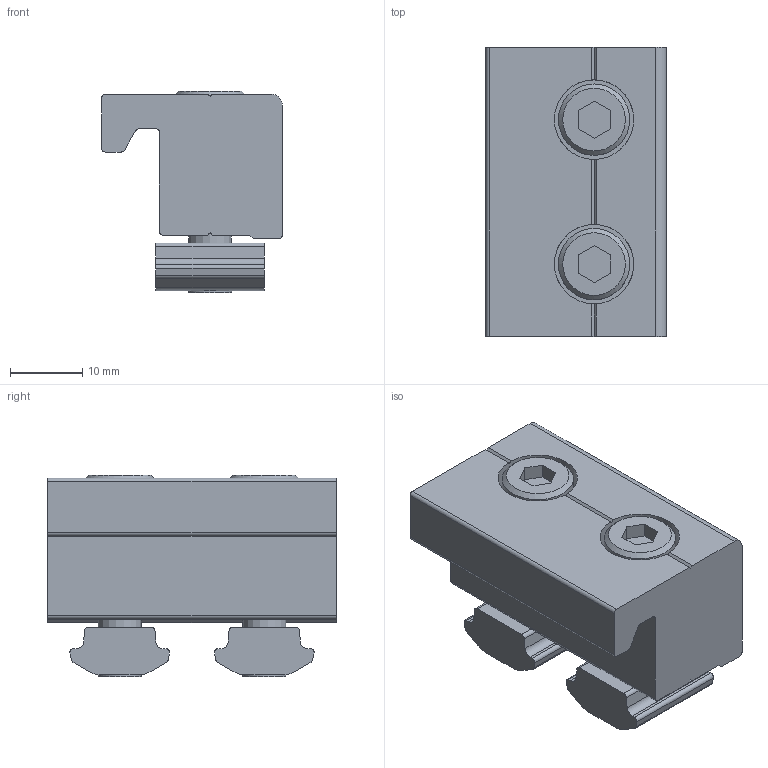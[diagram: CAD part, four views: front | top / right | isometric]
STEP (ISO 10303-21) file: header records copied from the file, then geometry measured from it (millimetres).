
FILE_DESCRIPTION(('STEP AP214'),'1');
FILE_NAME('SL4B-L40.stp','2017-07-26T07:26:17',(' '),(' '),'Spatial InterOp 3D',' ',' ');
FILE_SCHEMA(('automotive_design'));
Length unit declared in the file: millimetre
Products named in the file (4): SL4B-L40; SL4H-L40; NF40-M6
Assembly tree (5 placements, depth 2):
  SL4B-L40
    SL4H-L40
    (unnamed)  x2
    NF40-M6  x2
Bounding box: 25 x 40 x 27.93 mm (x, y, z)
Volume: 17224.1 mm3; surface area: 8354.2 mm2
Topology: 5 solids, 5 shells, 116 faces, 310 edges, 204 vertices
Faces by surface type: plane 74, cylinder 38, cone 4
Full cylindrical faces by diameter (mm): 6 x4, 6.6 x2, 9.87 x2, 11 x2
Entity records: 3179 total; most frequent: CARTESIAN_POINT 444, DIRECTION 442, ORIENTED_EDGE 406, EDGE_CURVE 203, AXIS2_PLACEMENT_3D 157, VERTEX_POINT 139, LINE 128, VECTOR 128
